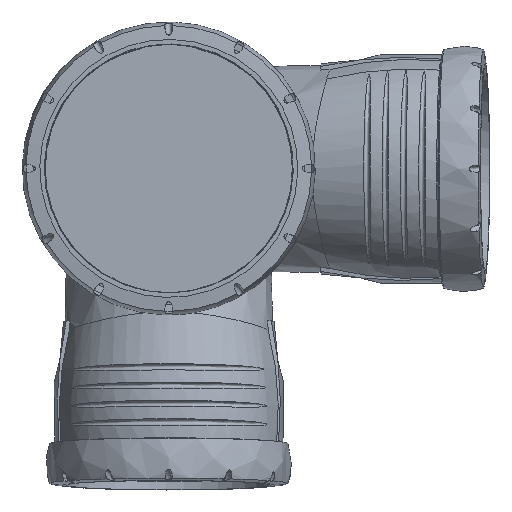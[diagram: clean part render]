
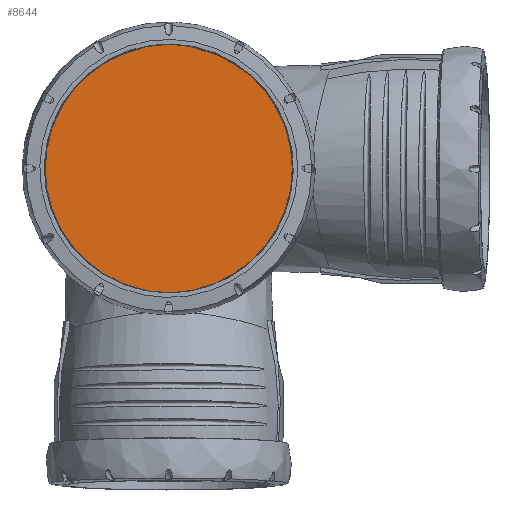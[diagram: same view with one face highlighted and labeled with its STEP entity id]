
A CAD part, top view. The second image highlights one B-rep face of the part: STEP entity #8644.
In plain terms, the highlighted planar face has unit normal (0, 0, 1).
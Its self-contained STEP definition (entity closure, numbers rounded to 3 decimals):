
#130=PLANE('',#9321);
#553=CIRCLE('',#9286,55.5);
#557=CIRCLE('',#9290,55.5);
#572=CIRCLE('',#9309,55.463);
#575=CIRCLE('',#9313,55.463);
#836=LINE('',#23838,#990);
#837=LINE('',#23839,#991);
#838=LINE('',#23840,#992);
#839=LINE('',#23841,#993);
#990=VECTOR('',#10647,0.014);
#991=VECTOR('',#10648,0.014);
#992=VECTOR('',#10649,0.014);
#993=VECTOR('',#10650,0.014);
#1463=FACE_OUTER_BOUND('',#1984,.T.);
#1984=EDGE_LOOP('',(#6635,#6636,#6637,#6638,#6639,#6640,#6641,#6642,#6643,
#6644,#6645,#6646));
#2558=B_SPLINE_CURVE_WITH_KNOTS('',3,(#23706,#23707,#23708,#23709,#23710,
#23711,#23712,#23713,#23714,#23715,#23716,#23717),.UNSPECIFIED.,.F.,.F.,
(4,2,2,2,2,4),(-0.168,-0.13,-0.076,
-0.041,-0.021,0.),.UNSPECIFIED.);
#2559=B_SPLINE_CURVE_WITH_KNOTS('',3,(#23743,#23744,#23745,#23746,#23747,
#23748,#23749,#23750,#23751,#23752,#23753,#23754),.UNSPECIFIED.,.F.,.F.,
(4,2,2,2,2,4),(-0.137,-0.12,-0.103,
-0.075,-0.031,0.),
 .UNSPECIFIED.);
#2560=B_SPLINE_CURVE_WITH_KNOTS('',3,(#23776,#23777,#23778,#23779,#23780,
#23781,#23782,#23783,#23784,#23785,#23786,#23787),.UNSPECIFIED.,.F.,.F.,
(4,2,2,2,2,4),(-0.168,-0.13,-0.076,
-0.041,-0.021,0.),.UNSPECIFIED.);
#2561=B_SPLINE_CURVE_WITH_KNOTS('',3,(#23813,#23814,#23815,#23816,#23817,
#23818,#23819,#23820,#23821,#23822,#23823,#23824),.UNSPECIFIED.,.F.,.F.,
(4,2,2,2,2,4),(-0.137,-0.12,-0.103,
-0.075,-0.031,0.),
 .UNSPECIFIED.);
#3321=VERTEX_POINT('',#23249);
#3322=VERTEX_POINT('',#23251);
#3327=VERTEX_POINT('',#23261);
#3328=VERTEX_POINT('',#23263);
#3338=VERTEX_POINT('',#23704);
#3339=VERTEX_POINT('',#23705);
#3340=VERTEX_POINT('',#23721);
#3341=VERTEX_POINT('',#23742);
#3342=VERTEX_POINT('',#23774);
#3343=VERTEX_POINT('',#23775);
#3344=VERTEX_POINT('',#23791);
#3345=VERTEX_POINT('',#23812);
#4453=EDGE_CURVE('',#3321,#3322,#553,.T.);
#4459=EDGE_CURVE('',#3327,#3328,#557,.T.);
#4479=EDGE_CURVE('',#3338,#3339,#2558,.T.);
#4482=EDGE_CURVE('',#3339,#3340,#572,.T.);
#4484=EDGE_CURVE('',#3340,#3341,#2559,.T.);
#4486=EDGE_CURVE('',#3342,#3343,#2560,.T.);
#4489=EDGE_CURVE('',#3343,#3344,#575,.T.);
#4491=EDGE_CURVE('',#3344,#3345,#2561,.T.);
#4498=EDGE_CURVE('',#3328,#3342,#836,.T.);
#4499=EDGE_CURVE('',#3341,#3327,#837,.T.);
#4500=EDGE_CURVE('',#3322,#3338,#838,.T.);
#4501=EDGE_CURVE('',#3345,#3321,#839,.T.);
#6635=ORIENTED_EDGE('',*,*,#4486,.F.);
#6636=ORIENTED_EDGE('',*,*,#4498,.F.);
#6637=ORIENTED_EDGE('',*,*,#4459,.F.);
#6638=ORIENTED_EDGE('',*,*,#4499,.F.);
#6639=ORIENTED_EDGE('',*,*,#4484,.F.);
#6640=ORIENTED_EDGE('',*,*,#4482,.F.);
#6641=ORIENTED_EDGE('',*,*,#4479,.F.);
#6642=ORIENTED_EDGE('',*,*,#4500,.F.);
#6643=ORIENTED_EDGE('',*,*,#4453,.F.);
#6644=ORIENTED_EDGE('',*,*,#4501,.F.);
#6645=ORIENTED_EDGE('',*,*,#4491,.F.);
#6646=ORIENTED_EDGE('',*,*,#4489,.F.);
#8644=ADVANCED_FACE('',(#1463),#130,.T.);
#9286=AXIS2_PLACEMENT_3D('',#23252,#10563,#10564);
#9290=AXIS2_PLACEMENT_3D('',#23264,#10573,#10574);
#9309=AXIS2_PLACEMENT_3D('',#23722,#10616,#10617);
#9313=AXIS2_PLACEMENT_3D('',#23792,#10626,#10627);
#9321=AXIS2_PLACEMENT_3D('',#23837,#10645,#10646);
#10563=DIRECTION('center_axis',(0.,0.,
-1.));
#10564=DIRECTION('ref_axis',(0.139,-0.99,0.));
#10573=DIRECTION('center_axis',(0.,0.,
-1.));
#10574=DIRECTION('ref_axis',(0.139,-0.99,0.));
#10616=DIRECTION('center_axis',(0.,0.,
-1.));
#10617=DIRECTION('ref_axis',(0.,-1.,0.));
#10626=DIRECTION('center_axis',(0.,0.,
-1.));
#10627=DIRECTION('ref_axis',(-0.22,-0.976,0.));
#10645=DIRECTION('center_axis',(0.,0.,
1.));
#10646=DIRECTION('ref_axis',(0.,-1.,0.));
#10647=DIRECTION('',(-0.979,0.203,0.));
#10648=DIRECTION('',(-0.979,-0.203,0.));
#10649=DIRECTION('',(0.979,-0.203,0.));
#10650=DIRECTION('',(0.979,0.203,0.));
#23249=CARTESIAN_POINT('',(-10.72,54.454,215.4));
#23251=CARTESIAN_POINT('',(10.72,54.455,215.4));
#23252=CARTESIAN_POINT('Origin',(0.,0.,
215.4));
#23261=CARTESIAN_POINT('',(10.72,-54.454,215.4));
#23263=CARTESIAN_POINT('',(-10.72,-54.455,215.4));
#23264=CARTESIAN_POINT('Origin',(0.,0.,
215.4));
#23704=CARTESIAN_POINT('',(10.734,54.451,215.4));
#23705=CARTESIAN_POINT('',(12.197,54.106,215.4));
#23706=CARTESIAN_POINT('Ctrl Pts',(10.734,54.451,215.4));
#23707=CARTESIAN_POINT('Ctrl Pts',(10.833,54.43,215.4));
#23708=CARTESIAN_POINT('Ctrl Pts',(10.933,54.407,215.4));
#23709=CARTESIAN_POINT('Ctrl Pts',(11.176,54.35,215.4));
#23710=CARTESIAN_POINT('Ctrl Pts',(11.255,54.331,215.4));
#23711=CARTESIAN_POINT('Ctrl Pts',(11.599,54.247,215.4));
#23712=CARTESIAN_POINT('Ctrl Pts',(11.684,54.226,215.4));
#23713=CARTESIAN_POINT('Ctrl Pts',(11.861,54.184,215.4));
#23714=CARTESIAN_POINT('Ctrl Pts',(11.925,54.168,215.4));
#23715=CARTESIAN_POINT('Ctrl Pts',(12.06,54.137,215.4));
#23716=CARTESIAN_POINT('Ctrl Pts',(12.128,54.121,215.4));
#23717=CARTESIAN_POINT('Ctrl Pts',(12.197,54.106,215.4));
#23721=CARTESIAN_POINT('',(12.197,-54.106,215.4));
#23722=CARTESIAN_POINT('Origin',(0.,0.,
215.4));
#23742=CARTESIAN_POINT('',(10.734,-54.451,215.4));
#23743=CARTESIAN_POINT('Ctrl Pts',(12.197,-54.106,215.4));
#23744=CARTESIAN_POINT('Ctrl Pts',(12.128,-54.121,215.4));
#23745=CARTESIAN_POINT('Ctrl Pts',(12.059,-54.137,215.4));
#23746=CARTESIAN_POINT('Ctrl Pts',(11.923,-54.169,215.4));
#23747=CARTESIAN_POINT('Ctrl Pts',(11.858,-54.184,215.4));
#23748=CARTESIAN_POINT('Ctrl Pts',(11.682,-54.226,215.4));
#23749=CARTESIAN_POINT('Ctrl Pts',(11.597,-54.247,215.4));
#23750=CARTESIAN_POINT('Ctrl Pts',(11.258,-54.33,215.4));
#23751=CARTESIAN_POINT('Ctrl Pts',(11.177,-54.35,215.4));
#23752=CARTESIAN_POINT('Ctrl Pts',(10.933,-54.407,215.4));
#23753=CARTESIAN_POINT('Ctrl Pts',(10.834,-54.43,215.4));
#23754=CARTESIAN_POINT('Ctrl Pts',(10.734,-54.451,215.4));
#23774=CARTESIAN_POINT('',(-10.734,-54.451,215.4));
#23775=CARTESIAN_POINT('',(-12.197,-54.106,215.4));
#23776=CARTESIAN_POINT('Ctrl Pts',(-10.734,-54.451,
215.4));
#23777=CARTESIAN_POINT('Ctrl Pts',(-10.833,-54.43,
215.4));
#23778=CARTESIAN_POINT('Ctrl Pts',(-10.933,-54.407,
215.4));
#23779=CARTESIAN_POINT('Ctrl Pts',(-11.176,-54.35,
215.4));
#23780=CARTESIAN_POINT('Ctrl Pts',(-11.255,-54.331,
215.4));
#23781=CARTESIAN_POINT('Ctrl Pts',(-11.599,-54.247,
215.4));
#23782=CARTESIAN_POINT('Ctrl Pts',(-11.684,-54.226,
215.4));
#23783=CARTESIAN_POINT('Ctrl Pts',(-11.861,-54.184,
215.4));
#23784=CARTESIAN_POINT('Ctrl Pts',(-11.925,-54.168,
215.4));
#23785=CARTESIAN_POINT('Ctrl Pts',(-12.06,-54.137,
215.4));
#23786=CARTESIAN_POINT('Ctrl Pts',(-12.128,-54.121,
215.4));
#23787=CARTESIAN_POINT('Ctrl Pts',(-12.197,-54.106,
215.4));
#23791=CARTESIAN_POINT('',(-12.197,54.106,215.4));
#23792=CARTESIAN_POINT('Origin',(0.,0.,
215.4));
#23812=CARTESIAN_POINT('',(-10.734,54.451,215.4));
#23813=CARTESIAN_POINT('Ctrl Pts',(-12.197,54.106,215.4));
#23814=CARTESIAN_POINT('Ctrl Pts',(-12.128,54.121,215.4));
#23815=CARTESIAN_POINT('Ctrl Pts',(-12.059,54.137,215.4));
#23816=CARTESIAN_POINT('Ctrl Pts',(-11.923,54.169,215.4));
#23817=CARTESIAN_POINT('Ctrl Pts',(-11.858,54.184,215.4));
#23818=CARTESIAN_POINT('Ctrl Pts',(-11.682,54.226,215.4));
#23819=CARTESIAN_POINT('Ctrl Pts',(-11.597,54.247,215.4));
#23820=CARTESIAN_POINT('Ctrl Pts',(-11.258,54.33,215.4));
#23821=CARTESIAN_POINT('Ctrl Pts',(-11.177,54.35,215.4));
#23822=CARTESIAN_POINT('Ctrl Pts',(-10.933,54.407,215.4));
#23823=CARTESIAN_POINT('Ctrl Pts',(-10.834,54.43,215.4));
#23824=CARTESIAN_POINT('Ctrl Pts',(-10.734,54.451,215.4));
#23837=CARTESIAN_POINT('Origin',(-56.554,55.848,215.4));
#23838=CARTESIAN_POINT('',(-43.67,-47.607,215.4));
#23839=CARTESIAN_POINT('',(-10.533,-58.87,215.4));
#23840=CARTESIAN_POINT('',(-21.667,61.183,215.4));
#23841=CARTESIAN_POINT('',(-32.556,49.916,215.4));
